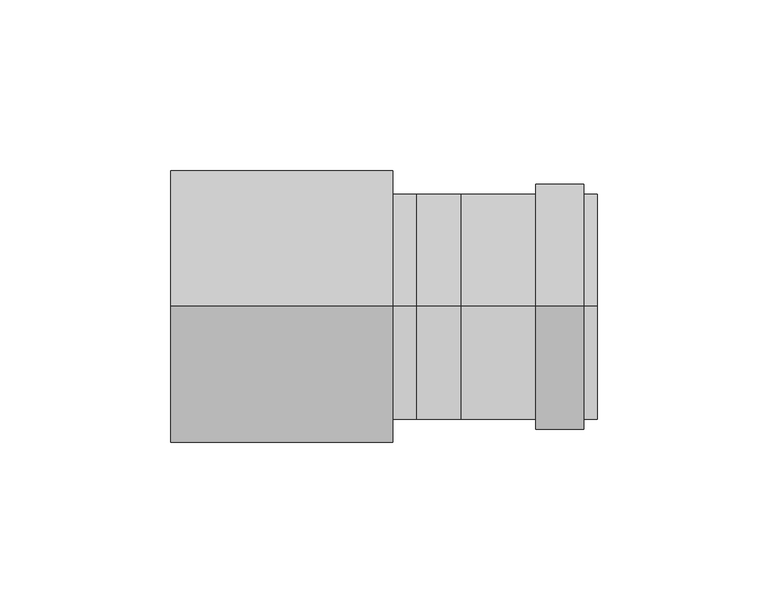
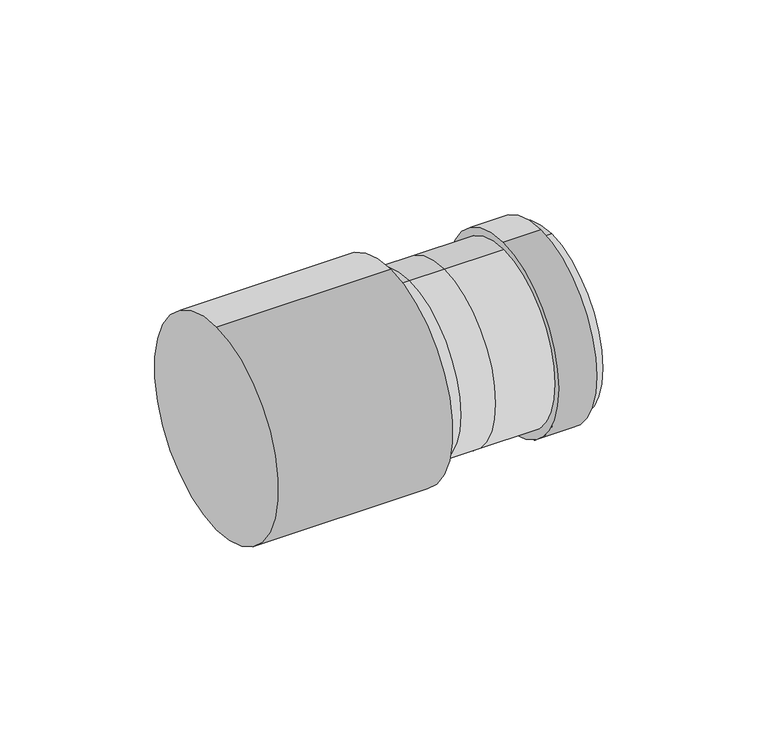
"""IFC4 building model written with IfcOpenShell, lengths in millimetres: duct fitting geometry, RSFen_DUF_UN_Twinline Reducer_M&G : ø080-100-150-200."""

from ifc_helpers import new_model, si_unit, point, frame, origin, origin_2d, place, context, project, spatial, polyline, circle_curve, trimmed, segment, composite_curve, outline, extrude, source, transform, mapped, element, save
from ifc_brep_helpers import plane_surface, cylinder_surface, revolved_surface, advanced_brep


def duct_fitting_5c795bad(model_context):
    return source(origin(), model_context, "Body", "SolidModel", [
        advanced_brep(
        [(65.0, 0.0, 33.0), (65.0, 0.0, -33.0), (72.0, 0.0, -33.0), (72.0, 0.0, 33.0), (85.0, 0.0, 30.5), (85.0, 0.0, -30.5), (85.0, 0.0, 33.0), (85.0, 0.0, -33.0), (125.0, 0.0, 33.0), (125.0, 0.0, -33.0), (125.0, 0.0, -30.5), (125.0, 0.0, 30.5)],
        [
            (0, 1, circle_curve(frame((65.0, 0.0, 0.0), z_axis=(-1.0, 0.0, 0.0), x_axis=(0.0, 0.0, -1.0)), 33.0)),
            (1, 0, circle_curve(frame((65.0, 0.0, 0.0), z_axis=(-1.0, 0.0, 0.0), x_axis=(0.0, 0.0, -1.0)), 33.0)),
            (1, 2),
            (2, 3, circle_curve(frame((72.0, 0.0, 0.0), z_axis=(-1.0, 0.0, 0.0), x_axis=(0.0, 0.0, -1.0)), 33.0)),
            (3, 0),
            (3, 2, circle_curve(frame((72.0, 0.0, 0.0), z_axis=(-1.0, 0.0, 0.0), x_axis=(0.0, 0.0, -1.0)), 33.0)),
            (4, 5, circle_curve(frame((85.0, 0.0, 0.0), z_axis=(1.0, 0.0, 0.0), x_axis=(0.0, 0.0, 1.0)), 30.5)),
            (5, 4, circle_curve(frame((85.0, 0.0, 0.0), z_axis=(1.0, 0.0, 0.0), x_axis=(0.0, 0.0, 1.0)), 30.5)),
            (6, 3),
            (2, 7),
            (7, 6, circle_curve(frame((85.0, 0.0, 0.0), z_axis=(-1.0, 0.0, 0.0), x_axis=(0.0, 0.0, -1.0)), 33.0)),
            (6, 7, circle_curve(frame((85.0, 0.0, 0.0), z_axis=(-1.0, 0.0, 0.0), x_axis=(0.0, 0.0, -1.0)), 33.0)),
            (8, 9, circle_curve(frame((125.0, 0.0, 0.0), z_axis=(1.0, 0.0, 0.0), x_axis=(0.0, 0.0, -1.0)), 33.0)),
            (9, 8, circle_curve(frame((125.0, 0.0, 0.0), z_axis=(1.0, 0.0, 0.0), x_axis=(0.0, 0.0, -1.0)), 33.0)),
            (10, 11, circle_curve(frame((125.0, 0.0, 0.0), z_axis=(-1.0, 0.0, 0.0), x_axis=(0.0, 0.0, 1.0)), 30.5)),
            (11, 10, circle_curve(frame((125.0, 0.0, 0.0), z_axis=(-1.0, 0.0, 0.0), x_axis=(0.0, 0.0, 1.0)), 30.5)),
            (8, 6),
            (7, 9),
            (10, 5),
            (4, 11),
        ],
        [
            plane_surface(frame((65.0, 0.0, -33.0), z_axis=(-1.0, 0.0, 0.0), x_axis=(0.0, -1.0, 0.0))),
            cylinder_surface(frame((65.0, 0.0, 0.0), z_axis=(1.0, 0.0, 0.0), x_axis=(0.0, 0.0, -1.0)), 33.0),
            plane_surface(frame((85.0, 0.0, -33.0), z_axis=(1.0, 0.0, 0.0), x_axis=(0.0, 1.0, 0.0))),
            cylinder_surface(frame((72.0, 0.0, 0.0), z_axis=(1.0, 0.0, 0.0), x_axis=(0.0, 0.0, -1.0)), 33.0),
            plane_surface(frame((125.0, 0.0, -33.0), z_axis=(1.0, 0.0, 0.0), x_axis=(0.0, 1.0, 0.0))),
            cylinder_surface(frame((85.0, 0.0, 0.0), z_axis=(1.0, 0.0, 0.0), x_axis=(0.0, 0.0, -1.0)), 33.0),
            revolved_surface(polyline([(85.0, 0.0, 30.5), (125.0, 0.0, 30.5)]), (135.0, 0.0, 0.0), (-1.0, 0.0, 0.0)),
        ],
        [
            (0, [[1, 2]]),
            (1, [[-2, 3, 4, 5]]),
            (1, [[-1, -5, 6, -3]]),
            (2, [[7, 8]]),
            (3, [[9, -4, 10, 11]]),
            (3, [[-9, 12, -10, -6]]),
            (4, [[13, 14], [15, 16]]),
            (5, [[-13, 17, -11, 18]]),
            (5, [[-14, -18, -12, -17]]),
            (6, [[19, -7, 20, -15]]),
            (6, [[-19, -16, -20, -8]]),
        ],
    ),
        extrude(outline(composite_curve([segment(trimmed(circle_curve(origin_2d(), 36.0), [point((0.0, 36.0))], [point((0.0, -36.0))], False, "CARTESIAN"), True, "CONTINUOUS"), segment(trimmed(circle_curve(origin_2d(), 36.0), [point((0.0, -36.0))], [point((0.0, 36.0))], False, "CARTESIAN"), True, "CONTINUOUS")], self_intersect=False), holes=[composite_curve([segment(trimmed(circle_curve(origin_2d(), 33.0), [point((0.0, -33.0))], [point((0.0, 33.0))], True, "CARTESIAN"), True, "CONTINUOUS"), segment(trimmed(circle_curve(origin_2d(), 33.0), [point((0.0, 33.0))], [point((0.0, -33.0))], True, "CARTESIAN"), True, "CONTINUOUS")], self_intersect=False)]), frame((107.0, 0.0, 0.0), z_axis=(1.0, 0.0, 0.0), x_axis=(0.0, 1.0, 0.0)), (0.0, 0.0, 1.0), 14.0),
        extrude(outline(composite_curve([segment(trimmed(circle_curve(origin_2d(), 40.0), [point((0.0, -40.0))], [point((0.0, 40.0))], False, "CARTESIAN"), True, "CONTINUOUS"), segment(trimmed(circle_curve(origin_2d(), 40.0), [point((0.0, 40.0))], [point((0.0, -40.0))], False, "CARTESIAN"), True, "CONTINUOUS")], self_intersect=False)), frame((0.0, 0.0, 0.0), z_axis=(1.0, 0.0, 0.0), x_axis=(0.0, 1.0, 0.0)), (0.0, 0.0, 1.0), 65.0),
    ])


if __name__ == "__main__":
    model = new_model("IFC4")
    model_context = context("Model", 3, world=origin())
    ifc_project = project(units=[si_unit("LENGTHUNIT", "METRE", prefix="MILLI")], contexts=[model_context])
    site = spatial("IfcSite", under=ifc_project)
    building = spatial("IfcBuilding", under=site)
    placement = place(None, origin())
    duct_fitting_shape = duct_fitting_5c795bad(model_context)
    element("IfcDuctFitting", 1, ObjectType="RSFen_DUF_UN_Twinline Reducer_M&G : ø080-100-150-200", at=placement, inside=building, context=model_context, shape_type="MappedRepresentation", body=[
        mapped(duct_fitting_shape, transform((0.0, 0.0, 0.0), x_axis=(1.0, 0.0, 0.0), y_axis=(0.0, 1.0, 0.0), z_axis=(0.0, 0.0, 1.0))),
    ])
    save(model, "model.ifc")
